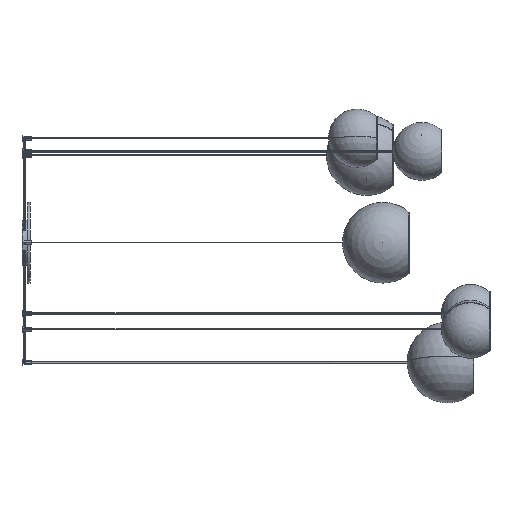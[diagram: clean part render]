
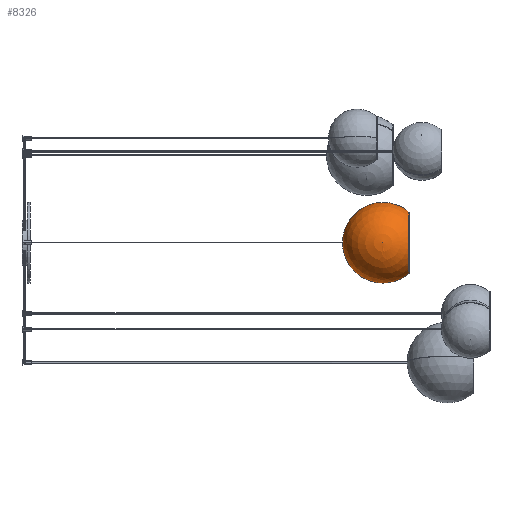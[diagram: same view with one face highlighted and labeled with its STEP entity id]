
A CAD part, left-side view. The second image highlights one B-rep face of the part: STEP entity #8326.
In plain terms, the highlighted spherical face has radius 125 mm.
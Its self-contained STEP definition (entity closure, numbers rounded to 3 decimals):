
#65 = DIRECTION ( 'NONE',  ( 0., 0., 1. ) ) ;
#83 = DIRECTION ( 'NONE',  ( 0., 0., -1. ) ) ;
#217 = AXIS2_PLACEMENT_3D ( 'NONE', #1978, #65, #3999 ) ;
#292 = CARTESIAN_POINT ( 'NONE',  ( 95.205, 0., 0. ) ) ;
#424 = CARTESIAN_POINT ( 'NONE',  ( 2., 205.984, 0. ) ) ;
#596 = CARTESIAN_POINT ( 'NONE',  ( 0., 205.984, 0. ) ) ;
#676 = CARTESIAN_POINT ( 'NONE',  ( 0., 205.984, 0. ) ) ;
#785 = ORIENTED_EDGE ( 'NONE', *, *, #7000, .F. ) ;
#1189 = CARTESIAN_POINT ( 'NONE',  ( -95.205, 0., 0. ) ) ;
#1542 = ORIENTED_EDGE ( 'NONE', *, *, #5948, .F. ) ;
#1561 = CARTESIAN_POINT ( 'NONE',  ( 0., 0., 0. ) ) ;
#1617 = DIRECTION ( 'NONE',  ( 0., 0., -1. ) ) ;
#1665 = DIRECTION ( 'NONE',  ( 1., 0., 0. ) ) ;
#1821 = VERTEX_POINT ( 'NONE', #424 ) ;
#1870 = DIRECTION ( 'NONE',  ( 0., -1., 0. ) ) ;
#1936 = CARTESIAN_POINT ( 'NONE',  ( 0., 81., 0. ) ) ;
#1978 = CARTESIAN_POINT ( 'NONE',  ( 0., 81., 0. ) ) ;
#1982 = DIRECTION ( 'NONE',  ( 0., -1., 0. ) ) ;
#2079 = EDGE_LOOP ( 'NONE', ( #1542, #3664, #3043, #2142, #785 ) ) ;
#2142 = ORIENTED_EDGE ( 'NONE', *, *, #2187, .T. ) ;
#2187 = EDGE_CURVE ( 'NONE', #1821, #7034, #2934, .T. ) ;
#2474 = DIRECTION ( 'NONE',  ( 0., 0., -1. ) ) ;
#2530 = AXIS2_PLACEMENT_3D ( 'NONE', #5937, #2474, #8520 ) ;
#2626 = FACE_OUTER_BOUND ( 'NONE', #2079, .T. ) ;
#2759 = SPHERICAL_SURFACE ( 'NONE', #217, 125. ) ;
#2934 = CIRCLE ( 'NONE', #2530, 125. ) ;
#3043 = ORIENTED_EDGE ( 'NONE', *, *, #4708, .T. ) ;
#3399 = CIRCLE ( 'NONE', #8221, 125. ) ;
#3407 = VERTEX_POINT ( 'NONE', #1189 ) ;
#3615 = VERTEX_POINT ( 'NONE', #5505 ) ;
#3664 = ORIENTED_EDGE ( 'NONE', *, *, #5558, .T. ) ;
#3924 = VERTEX_POINT ( 'NONE', #7856 ) ;
#3999 = DIRECTION ( 'NONE',  ( 1., 0., 0. ) ) ;
#4079 = CIRCLE ( 'NONE', #6976, 2. ) ;
#4109 = DIRECTION ( 'NONE',  ( 0., -1., 0. ) ) ;
#4708 = EDGE_CURVE ( 'NONE', #3924, #1821, #6404, .T. ) ;
#5505 = CARTESIAN_POINT ( 'NONE',  ( -2., 205.984, 0. ) ) ;
#5558 = EDGE_CURVE ( 'NONE', #3615, #3924, #4079, .T. ) ;
#5598 = AXIS2_PLACEMENT_3D ( 'NONE', #676, #1982, #5866 ) ;
#5866 = DIRECTION ( 'NONE',  ( 0., 0., -1. ) ) ;
#5937 = CARTESIAN_POINT ( 'NONE',  ( 0., 81., 0. ) ) ;
#5948 = EDGE_CURVE ( 'NONE', #3615, #3407, #3399, .T. ) ;
#6404 = CIRCLE ( 'NONE', #5598, 2. ) ;
#6435 = AXIS2_PLACEMENT_3D ( 'NONE', #1561, #4109, #1617 ) ;
#6976 = AXIS2_PLACEMENT_3D ( 'NONE', #596, #1870, #83 ) ;
#7000 = EDGE_CURVE ( 'NONE', #3407, #7034, #7813, .T. ) ;
#7034 = VERTEX_POINT ( 'NONE', #292 ) ;
#7813 = CIRCLE ( 'NONE', #6435, 95.205 ) ;
#7856 = CARTESIAN_POINT ( 'NONE',  ( 0., 205.984, -2. ) ) ;
#8221 = AXIS2_PLACEMENT_3D ( 'NONE', #1936, #8251, #1665 ) ;
#8251 = DIRECTION ( 'NONE',  ( 0., 0., 1. ) ) ;
#8326 = ADVANCED_FACE ( 'NONE', ( #2626 ), #2759, .T. ) ;
#8520 = DIRECTION ( 'NONE',  ( -1., 0., 0. ) ) ;
